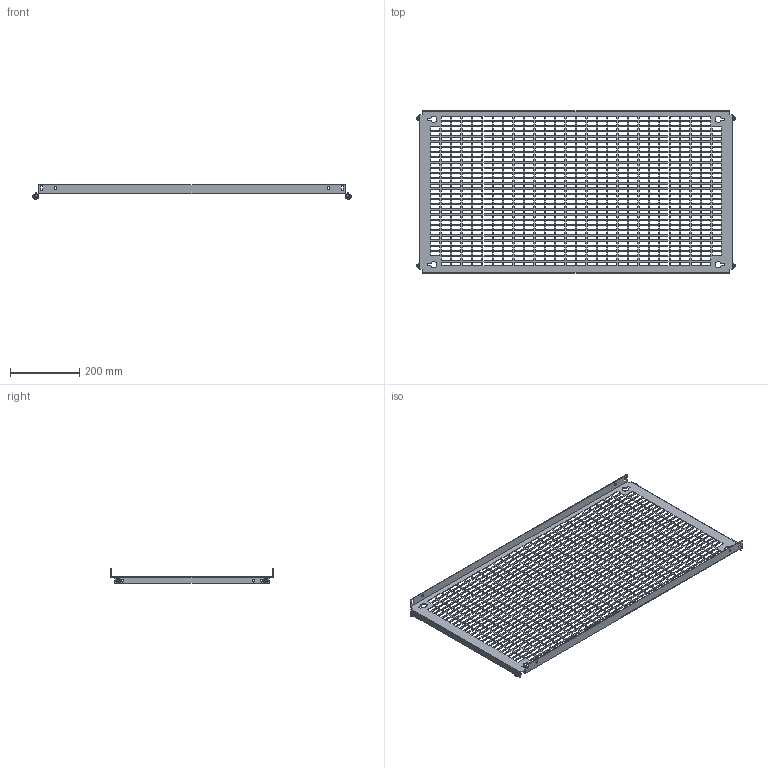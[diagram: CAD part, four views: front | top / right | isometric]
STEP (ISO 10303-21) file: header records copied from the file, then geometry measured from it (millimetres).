
FILE_DESCRIPTION(('Open CASCADE Model'),'2;1');
FILE_NAME('Open CASCADE Shape Model','2025-02-19T16:50:31',('Author'),( 'Open CASCADE'),'Open CASCADE STEP processor 7.8','Open CASCADE 7.8' ,'Unknown');
FILE_SCHEMA(('AUTOMOTIVE_DESIGN { 1 0 10303 214 1 1 1 1 }'));
Length unit declared in the file: millimetre
Products named in the file (4): Compound1; Solid1; Solid2; Solid3
Assembly tree (9 placements, depth 2):
  Compound1
    Solid1
    Solid2  x4
    Solid3  x4
Bounding box: 920 x 469 x 43 mm (x, y, z)
Volume: 500212.3 mm3; surface area: 625735.8 mm2
Topology: 9 solids, 9 shells, 3508 faces, 10353 edges, 6867 vertices
Faces by surface type: plane 3350, cone 68, bspline 48, cylinder 30, torus 12
Full cylindrical faces by diameter (mm): 5 x4, 6 x8, 7 x14
Entity records: 114134 total; most frequent: CARTESIAN_POINT 20639, ORIENTED_EDGE 20028, DIRECTION 16702, EDGE_CURVE 10014, LINE 9856, VECTOR 9856, VERTEX_POINT 6669, FACE_BOUND 5007
